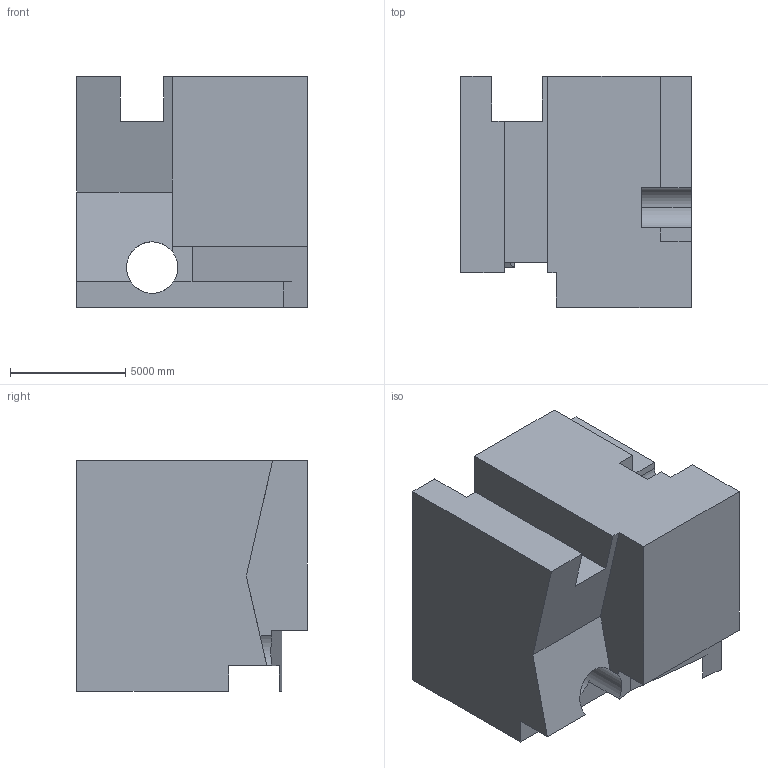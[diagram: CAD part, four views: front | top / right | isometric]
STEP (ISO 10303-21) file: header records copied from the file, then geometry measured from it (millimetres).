
FILE_DESCRIPTION (( 'STEP AP203' ), '1' );
FILE_NAME ('1747.STEP', '2022-08-19T12:21:02', ( 'user' ), ( '' ), 'SwSTEP 2.0', 'SolidWorks 2021', '' );
FILE_SCHEMA (( 'CONFIG_CONTROL_DESIGN' ));
Length unit declared in the file: centimetre
Products named in the file (1): 1747
Bounding box: 10000 x 10000 x 10000 mm (x, y, z)
Volume: 763519330194.7 mm3; surface area: 660071129.2 mm2
Topology: 1 solids, 1 shells, 38 faces, 114 edges, 76 vertices
Faces by surface type: plane 34, cylinder 4
Entity records: 1349 total; most frequent: CARTESIAN_POINT 238, ORIENTED_EDGE 228, DIRECTION 199, EDGE_CURVE 114, VECTOR 101, LINE 101, VERTEX_POINT 76, AXIS2_PLACEMENT_3D 49
